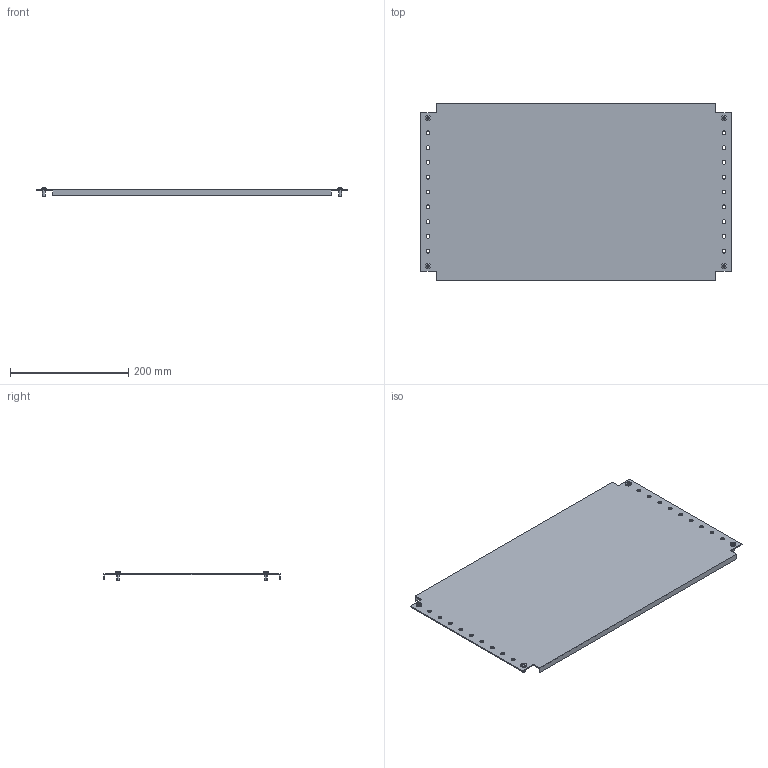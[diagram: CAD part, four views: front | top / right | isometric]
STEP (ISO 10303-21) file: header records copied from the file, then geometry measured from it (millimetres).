
FILE_DESCRIPTION (( 'STEP AP203' ), '1' );
FILE_NAME ('R6MPP03600.STEP', '2025-05-16T08:11:46', ( '' ), ( '' ), 'SwSTEP 2.0', 'SolidWorks 2022', '' );
FILE_SCHEMA (( 'CONFIG_CONTROL_DESIGN' ));
Length unit declared in the file: millimetre
Products named in the file (3): R6MPP03600; M5x12 DIN 7500 C Torx Zinc_stright; RB.3313.00.00.0 simple_-07
Assembly tree (5 placements, depth 2):
  R6MPP03600
    RB.3313.00.00.0 simple_-07
    M5x12 DIN 7500 C Torx Zinc_stright  x4
Bounding box: 525 x 298 x 15.56 mm (x, y, z)
Volume: 292962 mm3; surface area: 329179.6 mm2
Topology: 5 solids, 5 shells, 166 faces, 404 edges, 244 vertices
Faces by surface type: cylinder 60, plane 58, cone 16, torus 16, bspline 8, sphere 8
Entity records: 3647 total; most frequent: CARTESIAN_POINT 729, DIRECTION 558, ORIENTED_EDGE 504, EDGE_CURVE 252, AXIS2_PLACEMENT_3D 216, VERTEX_POINT 163, EDGE_LOOP 139, LINE 126
